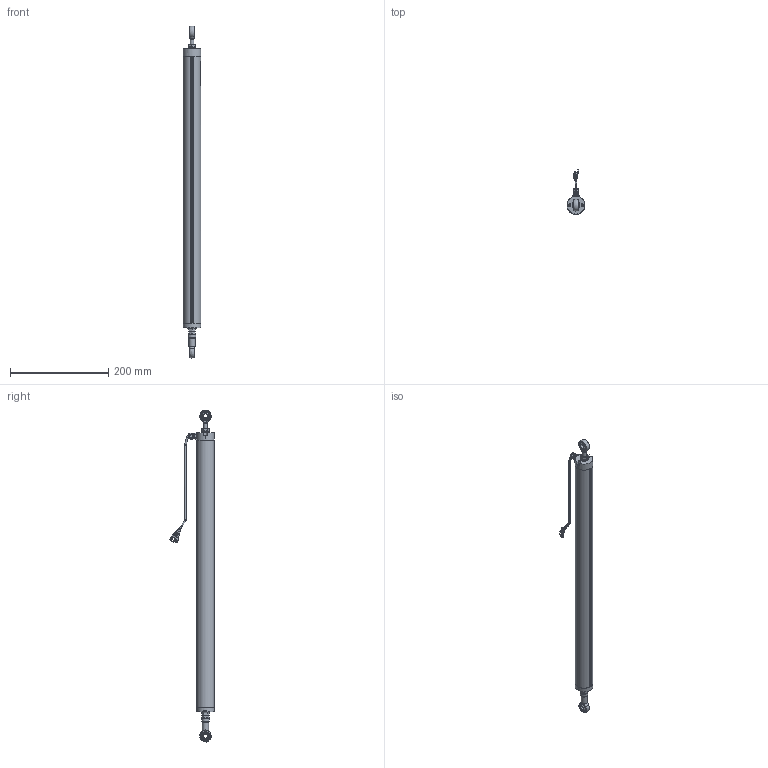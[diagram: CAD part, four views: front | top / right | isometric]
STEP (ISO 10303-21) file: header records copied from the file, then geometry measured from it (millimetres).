
FILE_DESCRIPTION(/* description */ (''),/* implementation_level */ '2;1');
FILE_NAME(/* name */ 'C:\Users\Justin\Documents\CAD\The Sensor Connection\LPPS\LPPS-36B Series\3D\LPPS-36B-475\LPPS 36B-475 Assembly.stp',/* time_stamp */ '2020-09-18T14:47:01-04:00',/* author */ ('Justin'),/* organization */ (''),/* preprocessor_version */ 'ST-DEVELOPER v18.1',/* originating_system */ 'Autodesk Inventor 2021',/* authorisation */ '');
FILE_SCHEMA (('AUTOMOTIVE_DESIGN { 1 0 10303 214 3 1 1 }'));
Length unit declared in the file: inch
Products named in the file (3): LPPS 36B-475 Assembly; LPPS 36B-475 Shaft_Shrinkwrap; LPPS 36B-475_Shrinkwrap_1
Assembly tree (2 placements, depth 2):
  LPPS 36B-475 Assembly
    LPPS 36B-475 Shaft_Shrinkwrap
    LPPS 36B-475_Shrinkwrap_1
Bounding box: 36.05 x 90.87 x 674.86 mm (x, y, z)
Volume: 197766.8 mm3; surface area: 167431.8 mm2
Topology: 25 solids, 25 shells, 1051 faces, 2589 edges, 1663 vertices
Faces by surface type: plane 465, cylinder 253, bspline 195, torus 73, cone 60, sphere 5
Full cylindrical faces by diameter (mm): 1.236 x3, 2.5 x2, 3 x6, 3.175 x3, 3.5 x5, 3.708 x1, 5 x2, 5.5 x1, 6 x2, 6.647 x1, 7 x2, 8 x10, 8.1 x1, 8.4 x1, 9 x1, 10 x1, 11 x1, 12.5 x1, 15 x4, 15.8 x1, 16 x1, 18.5 x2, 36 x1
Entity records: 37380 total; most frequent: CARTESIAN_POINT 12057, ORIENTED_EDGE 5178, DIRECTION 4681, EDGE_CURVE 2589, AXIS2_PLACEMENT_3D 1767, VERTEX_POINT 1663, EDGE_LOOP 1163, LINE 1147
